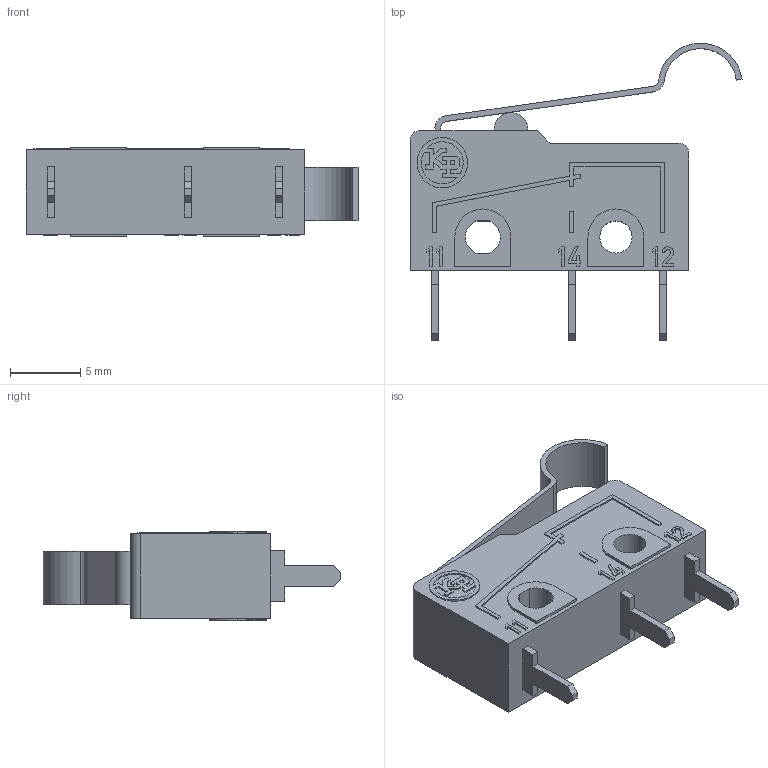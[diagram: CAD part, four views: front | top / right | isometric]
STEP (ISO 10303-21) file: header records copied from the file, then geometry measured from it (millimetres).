
FILE_DESCRIPTION(('Microrutor Subminiatura Alavanca c/ Roldana Simulada'),'2;1');
FILE_NAME('E:\WorkFolder\Bibl\3DWeb\kp_mm_mm$u1$i_step.stp','2022-08-17T08:50:57',('DIE'),('KAP Componentes Eletricos Ltda.'),'Autodesk Inventor 2011','Autodesk Inventor 2011','Direitos reservados. Proibido reproducao, cedencia ou revelacao de conteudo a terceiros, salvo com autorizacao.');
FILE_SCHEMA(('AUTOMOTIVE_DESIGN { 1 0 10303 214 1 1 1 1 }'));
Length unit declared in the file: millimetre
Products named in the file (1): Part2
Bounding box: 23.7 x 21.23 x 6.4 mm (x, y, z)
Volume: 1153.8 mm3; surface area: 1127 mm2
Topology: 1 solids, 1 shells, 260 faces, 694 edges, 463 vertices
Faces by surface type: plane 227, cylinder 33
Full cylindrical faces by diameter (mm): 2.3 x1, 3.6 x1
Entity records: 8274 total; most frequent: CARTESIAN_POINT 1414, ORIENTED_EDGE 1382, DIRECTION 1279, EDGE_CURVE 691, VECTOR 625, LINE 625, VERTEX_POINT 462, AXIS2_PLACEMENT_3D 327
